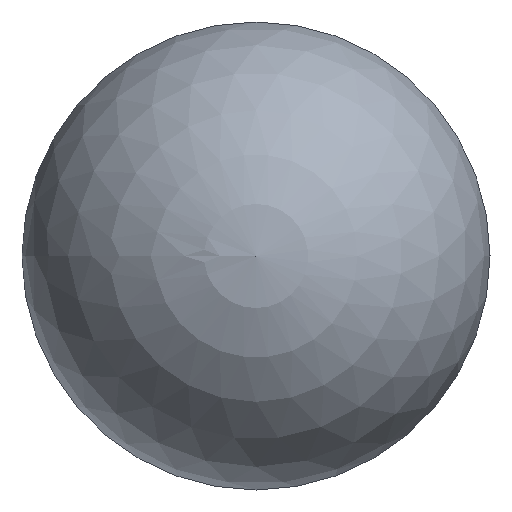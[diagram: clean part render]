
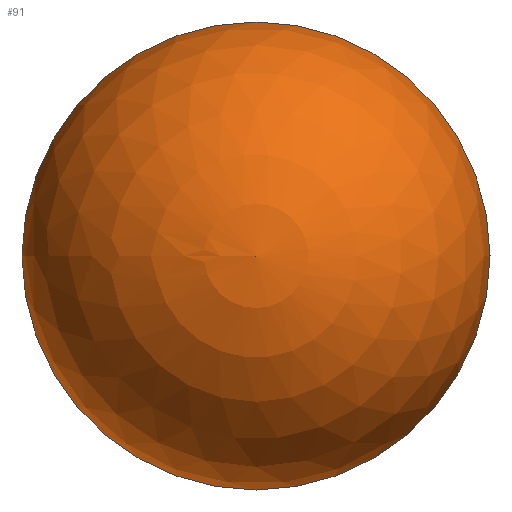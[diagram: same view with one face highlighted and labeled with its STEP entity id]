
A CAD part, left-side view. The second image highlights one B-rep face of the part: STEP entity #91.
In plain terms, the highlighted spherical face has radius 6.45 mm.
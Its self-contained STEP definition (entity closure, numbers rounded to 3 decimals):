
#27=ORIENTED_EDGE('',*,*,#41,.F.);
#41=EDGE_CURVE('',#48,#48,#55,.T.);
#48=VERTEX_POINT('',#162);
#55=CIRCLE('',#113,6.45);
#62=EDGE_LOOP('',(#27));
#76=FACE_BOUND('',#62,.T.);
#90=SPHERICAL_SURFACE('',#112,6.45);
#91=ADVANCED_FACE('',(#76),#90,.T.);
#112=AXIS2_PLACEMENT_3D('',#160,#129,#130);
#113=AXIS2_PLACEMENT_3D('',#161,#131,#132);
#129=DIRECTION('',(1.,0.,0.));
#130=DIRECTION('',(0.,1.,0.));
#131=DIRECTION('',(1.,0.,0.));
#132=DIRECTION('',(0.,1.,0.));
#160=CARTESIAN_POINT('',(6.45,0.,0.));
#161=CARTESIAN_POINT('',(6.45,0.,0.));
#162=CARTESIAN_POINT('',(6.45,6.45,0.));
